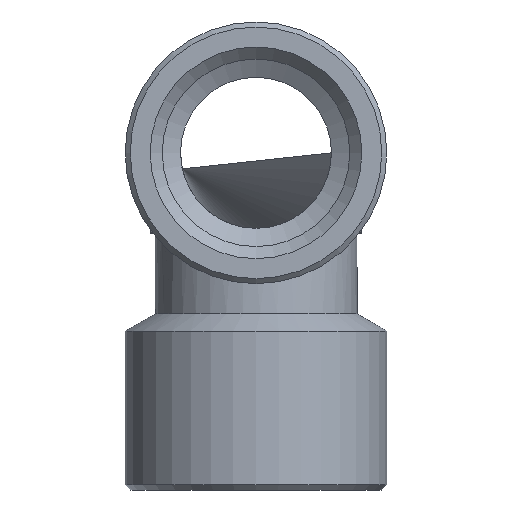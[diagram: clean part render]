
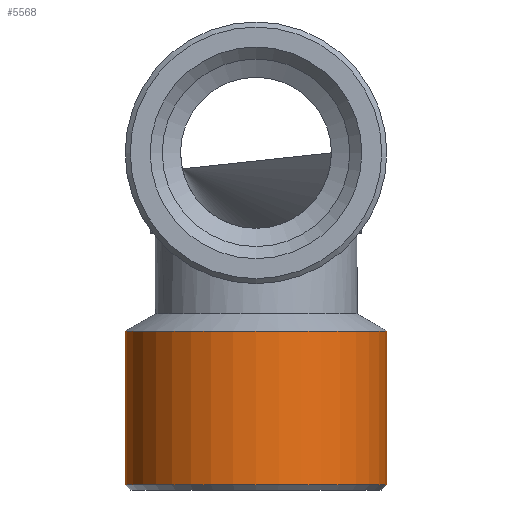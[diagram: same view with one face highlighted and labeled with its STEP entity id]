
A CAD part, left-side view. The second image highlights one B-rep face of the part: STEP entity #5568.
In plain terms, the highlighted cylindrical face has radius 13 mm (diameter 26 mm), a full revolution.
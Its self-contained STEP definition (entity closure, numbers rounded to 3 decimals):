
#1480=CYLINDRICAL_SURFACE('',#5483,13.);
#1636=ORIENTED_EDGE('',*,*,#1977,.F.);
#1637=ORIENTED_EDGE('',*,*,#1976,.T.);
#1782=CIRCLE('',#5482,13.);
#1783=CIRCLE('',#5484,13.);
#1868=VERTEX_POINT('',#5322);
#1869=VERTEX_POINT('',#5325);
#1976=EDGE_CURVE('',#1868,#1868,#1782,.T.);
#1977=EDGE_CURVE('',#1869,#1869,#1783,.T.);
#2071=EDGE_LOOP('',(#1636));
#2072=EDGE_LOOP('',(#1637));
#2157=FACE_BOUND('',#2071,.T.);
#2158=FACE_BOUND('',#2072,.T.);
#2357=DIRECTION('',(0.,-1.,0.));
#2358=DIRECTION('',(0.,0.,13.));
#2359=DIRECTION('',(0.,1.,0.));
#2360=DIRECTION('',(1.,0.,0.));
#2361=DIRECTION('',(0.,-1.,0.));
#2362=DIRECTION('',(0.,0.,13.));
#5322=CARTESIAN_POINT('',(47.569,11.997,13.));
#5323=CARTESIAN_POINT('',(47.569,11.997,0.));
#5324=CARTESIAN_POINT('',(47.569,-3.3,0.));
#5325=CARTESIAN_POINT('',(47.569,-3.3,13.));
#5326=CARTESIAN_POINT('',(47.569,-3.3,0.));
#5482=AXIS2_PLACEMENT_3D('',#5323,#2357,#2358);
#5483=AXIS2_PLACEMENT_3D('',#5324,#2359,#2360);
#5484=AXIS2_PLACEMENT_3D('',#5326,#2361,#2362);
#5568=ADVANCED_FACE('',(#2157,#2158),#1480,.T.);
